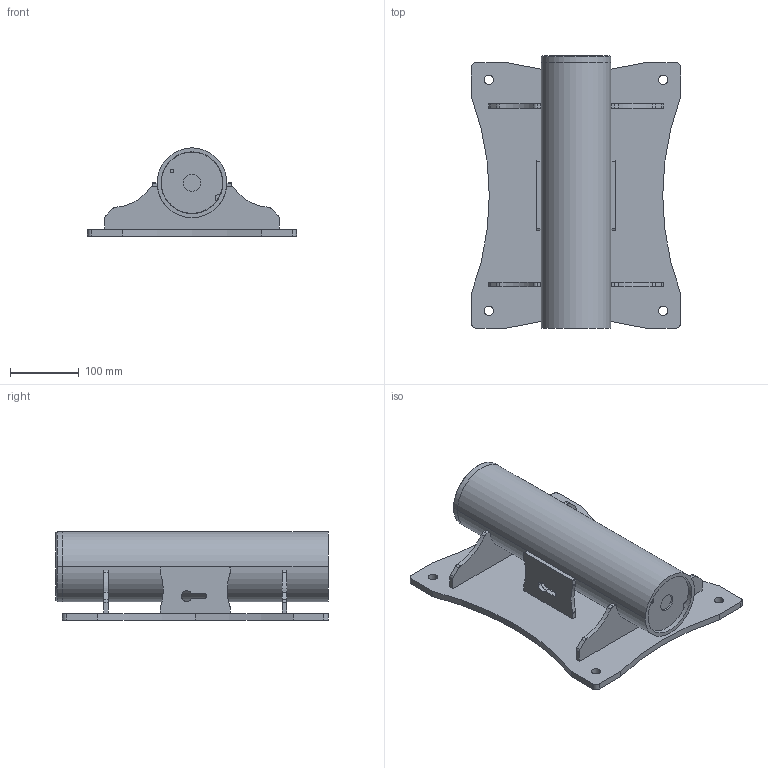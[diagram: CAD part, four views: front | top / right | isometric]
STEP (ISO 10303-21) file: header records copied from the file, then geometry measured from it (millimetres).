
FILE_DESCRIPTION (( 'STEP AP214' ), '1' );
FILE_NAME ('OZWALL2-TPSS.STEP', '2026-05-14T13:53:02', ( '' ), ( '' ), 'SwSTEP 2.0', 'SolidWorks 2023', '' );
FILE_SCHEMA (( 'AUTOMOTIVE_DESIGN' ));
Length unit declared in the file: inch
Products named in the file (11): 370-0080_OZWALL2; 370-0282; 370-0281; 366-0380; OZWALL2-TPSS; 390-0393; 370-0180; 370-0280; 366-0290; 368-0281; 371-0000_NO BASE CAP
Assembly tree (12 placements, depth 4):
  OZWALL2-TPSS
    371-0000_NO BASE CAP
      370-0080_OZWALL2
        370-0280
        370-0281  x2
        370-0180
        368-0281
        366-0380
        370-0282  x2
      390-0393
      366-0290
Bounding box: 304.8 x 396.88 x 128.59 mm (x, y, z)
Volume: 2141551.7 mm3; surface area: 621589.2 mm2
Topology: 10 solids, 10 shells, 275 faces, 740 edges, 487 vertices
Faces by surface type: cylinder 133, plane 128, cone 12, torus 2
Entity records: 6683 total; most frequent: DIRECTION 1145, CARTESIAN_POINT 1138, ORIENTED_EDGE 1044, EDGE_CURVE 522, AXIS2_PLACEMENT_3D 412, VERTEX_POINT 343, VECTOR 321, LINE 321
